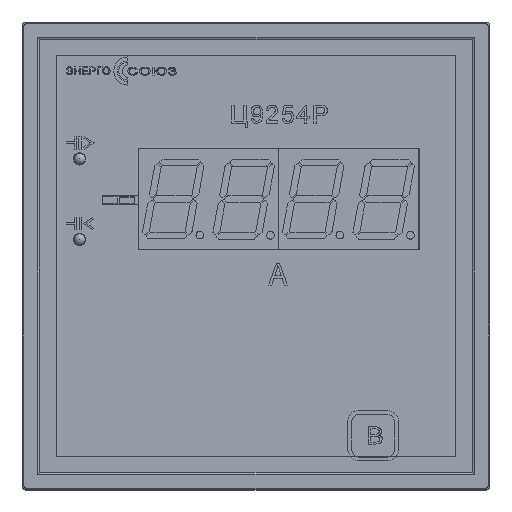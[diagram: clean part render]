
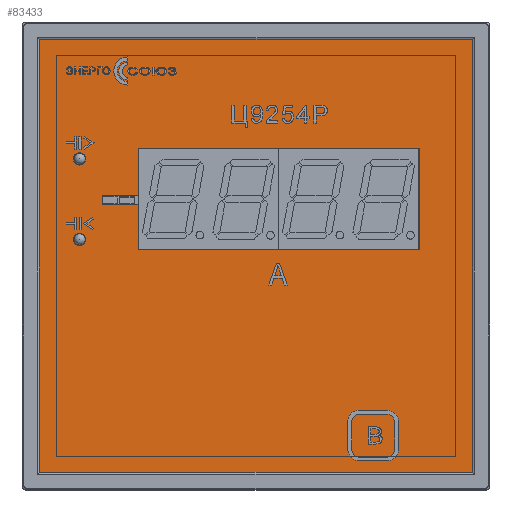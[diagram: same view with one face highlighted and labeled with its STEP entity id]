
A CAD part, top view. The second image highlights one B-rep face of the part: STEP entity #83433.
In plain terms, the highlighted planar face has unit normal (0, 0, 1).
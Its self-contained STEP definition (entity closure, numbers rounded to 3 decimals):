
#422 = LINE ( 'NONE', #78464, #5963 ) ;
#1826 = LINE ( 'NONE', #71467, #45880 ) ;
#2286 = CARTESIAN_POINT ( 'NONE',  ( -30.049, 13.175, 0.2 ) ) ;
#2744 = VERTEX_POINT ( 'NONE', #32782 ) ;
#2803 = EDGE_CURVE ( 'NONE', #2744, #46158, #65421, .T. ) ;
#3483 = EDGE_LOOP ( 'NONE', ( #72684, #53530 ) ) ;
#3494 = ORIENTED_EDGE ( 'NONE', *, *, #59386, .F. ) ;
#4283 = CARTESIAN_POINT ( 'NONE',  ( -45.241, 4.243, 0.2 ) ) ;
#4389 = ORIENTED_EDGE ( 'NONE', *, *, #40907, .F. ) ;
#5963 = VECTOR ( 'NONE', #25873, 1000. ) ;
#6700 = CARTESIAN_POINT ( 'NONE',  ( -39.339, 15.524, 0.2 ) ) ;
#7284 = EDGE_CURVE ( 'NONE', #52586, #10362, #62003, .T. ) ;
#8060 = VERTEX_POINT ( 'NONE', #46466 ) ;
#8106 = CARTESIAN_POINT ( 'NONE',  ( -30.049, 15.524, 0.2 ) ) ;
#8374 = EDGE_LOOP ( 'NONE', ( #12281, #52105 ) ) ;
#8679 = VECTOR ( 'NONE', #55941, 1000. ) ;
#9442 = EDGE_CURVE ( 'NONE', #79914, #61979, #65997, .T. ) ;
#9828 = CARTESIAN_POINT ( 'NONE',  ( 41.951, 27.637, 0.2 ) ) ;
#10157 = CARTESIAN_POINT ( 'NONE',  ( -39.339, 13.175, 0.2 ) ) ;
#10362 = VERTEX_POINT ( 'NONE', #25589 ) ;
#11026 = CARTESIAN_POINT ( 'NONE',  ( 55.5, 55.5, 0.2 ) ) ;
#11058 = FACE_BOUND ( 'NONE', #75165, .T. ) ;
#11604 = EDGE_CURVE ( 'NONE', #36443, #81263, #76694, .T. ) ;
#12035 = EDGE_CURVE ( 'NONE', #46158, #55163, #1826, .T. ) ;
#12281 = ORIENTED_EDGE ( 'NONE', *, *, #76876, .F. ) ;
#12957 = VECTOR ( 'NONE', #56252, 1000. ) ;
#13944 = VECTOR ( 'NONE', #48841, 1000. ) ;
#14306 = ORIENTED_EDGE ( 'NONE', *, *, #7284, .F. ) ;
#14688 = CARTESIAN_POINT ( 'NONE',  ( -43.665, 24.89, 0.2 ) ) ;
#15291 = CARTESIAN_POINT ( 'NONE',  ( -55.5, 55.5, 0.2 ) ) ;
#15432 = EDGE_CURVE ( 'NONE', #51845, #2744, #47107, .T. ) ;
#16305 = DIRECTION ( 'NONE',  ( 1., 0., 0. ) ) ;
#16469 = AXIS2_PLACEMENT_3D ( 'NONE', #4283, #62790, #30140 ) ;
#17455 = PLANE ( 'NONE',  #30365 ) ;
#17786 = VERTEX_POINT ( 'NONE', #71973 ) ;
#17977 = DIRECTION ( 'NONE',  ( -1., 0., 0. ) ) ;
#18355 = CARTESIAN_POINT ( 'NONE',  ( -30.049, 1.725, 0.2 ) ) ;
#18996 = VERTEX_POINT ( 'NONE', #73552 ) ;
#19255 = CIRCLE ( 'NONE', #31516, 1.571 ) ;
#19423 = VECTOR ( 'NONE', #61896, 1000. ) ;
#19737 = DIRECTION ( 'NONE',  ( 0., 1., 0. ) ) ;
#20529 = CARTESIAN_POINT ( 'NONE',  ( -55.5, 55.5, 0.2 ) ) ;
#21469 = CARTESIAN_POINT ( 'NONE',  ( -39.339, 15.524, 0.2 ) ) ;
#24515 = CARTESIAN_POINT ( 'NONE',  ( -30.049, 27.637, 0.2 ) ) ;
#25589 = CARTESIAN_POINT ( 'NONE',  ( 41.951, 1.725, 0.2 ) ) ;
#25873 = DIRECTION ( 'NONE',  ( 1., 0., 0. ) ) ;
#27216 = CARTESIAN_POINT ( 'NONE',  ( -30.049, 15.524, 0.2 ) ) ;
#27667 = VECTOR ( 'NONE', #60679, 1000. ) ;
#28586 = EDGE_CURVE ( 'NONE', #60667, #52586, #30374, .T. ) ;
#29034 = ORIENTED_EDGE ( 'NONE', *, *, #53539, .F. ) ;
#29250 = LINE ( 'NONE', #10157, #19423 ) ;
#30140 = DIRECTION ( 'NONE',  ( 1., 0., 0. ) ) ;
#30365 = AXIS2_PLACEMENT_3D ( 'NONE', #55240, #35701, #76362 ) ;
#30374 = LINE ( 'NONE', #49860, #12957 ) ;
#30735 = ORIENTED_EDGE ( 'NONE', *, *, #11604, .F. ) ;
#31001 = CARTESIAN_POINT ( 'NONE',  ( -43.67, 4.243, 0.2 ) ) ;
#31516 = AXIS2_PLACEMENT_3D ( 'NONE', #67624, #41738, #16305 ) ;
#31984 = DIRECTION ( 'NONE',  ( 0., 0., 1. ) ) ;
#32782 = CARTESIAN_POINT ( 'NONE',  ( -55.5, -55.5, 0.2 ) ) ;
#33577 = CARTESIAN_POINT ( 'NONE',  ( -46.812, 4.243, 0.2 ) ) ;
#35566 = ORIENTED_EDGE ( 'NONE', *, *, #28586, .F. ) ;
#35610 = VECTOR ( 'NONE', #50266, 1000. ) ;
#35701 = DIRECTION ( 'NONE',  ( 0., 0., 1. ) ) ;
#36443 = VERTEX_POINT ( 'NONE', #8106 ) ;
#37615 = CARTESIAN_POINT ( 'NONE',  ( -30.049, 27.637, 0.2 ) ) ;
#38327 = DIRECTION ( 'NONE',  ( 1., 0., 0. ) ) ;
#39806 = ORIENTED_EDGE ( 'NONE', *, *, #2803, .T. ) ;
#40907 = EDGE_CURVE ( 'NONE', #79631, #36443, #67075, .T. ) ;
#41657 = CARTESIAN_POINT ( 'NONE',  ( 41.951, 1.725, 0.2 ) ) ;
#41738 = DIRECTION ( 'NONE',  ( 0., 0., 1. ) ) ;
#44636 = VECTOR ( 'NONE', #67949, 1000. ) ;
#45219 = CARTESIAN_POINT ( 'NONE',  ( 55.5, -55.5, 0.2 ) ) ;
#45880 = VECTOR ( 'NONE', #19737, 1000. ) ;
#46158 = VERTEX_POINT ( 'NONE', #45219 ) ;
#46227 = VECTOR ( 'NONE', #53095, 1000. ) ;
#46466 = CARTESIAN_POINT ( 'NONE',  ( -39.339, 13.175, 0.2 ) ) ;
#47107 = LINE ( 'NONE', #15291, #27667 ) ;
#48841 = DIRECTION ( 'NONE',  ( 0., 1., 0. ) ) ;
#49860 = CARTESIAN_POINT ( 'NONE',  ( -30.049, 1.725, 0.2 ) ) ;
#50078 = FACE_BOUND ( 'NONE', #3483, .T. ) ;
#50266 = DIRECTION ( 'NONE',  ( 1., 0., 0. ) ) ;
#50488 = FACE_BOUND ( 'NONE', #8374, .T. ) ;
#51845 = VERTEX_POINT ( 'NONE', #20529 ) ;
#52089 = DIRECTION ( 'NONE',  ( -1., 0., 0. ) ) ;
#52105 = ORIENTED_EDGE ( 'NONE', *, *, #9442, .F. ) ;
#52586 = VERTEX_POINT ( 'NONE', #18355 ) ;
#52774 = VECTOR ( 'NONE', #52089, 1000. ) ;
#52910 = ORIENTED_EDGE ( 'NONE', *, *, #72945, .T. ) ;
#52948 = ORIENTED_EDGE ( 'NONE', *, *, #56794, .F. ) ;
#53095 = DIRECTION ( 'NONE',  ( 0., -1., 0. ) ) ;
#53359 = EDGE_LOOP ( 'NONE', ( #70186, #39806, #81529, #52910 ) ) ;
#53530 = ORIENTED_EDGE ( 'NONE', *, *, #56682, .F. ) ;
#53539 = EDGE_CURVE ( 'NONE', #8060, #60667, #422, .T. ) ;
#53977 = LINE ( 'NONE', #9828, #13944 ) ;
#54055 = ORIENTED_EDGE ( 'NONE', *, *, #59482, .F. ) ;
#55163 = VERTEX_POINT ( 'NONE', #11026 ) ;
#55240 = CARTESIAN_POINT ( 'NONE',  ( -55.5, -55.5, 0.2 ) ) ;
#55941 = DIRECTION ( 'NONE',  ( -1., 0., 0. ) ) ;
#56252 = DIRECTION ( 'NONE',  ( 0., -1., 0. ) ) ;
#56682 = EDGE_CURVE ( 'NONE', #18996, #60364, #19255, .T. ) ;
#56794 = EDGE_CURVE ( 'NONE', #10362, #17786, #53977, .T. ) ;
#59043 = AXIS2_PLACEMENT_3D ( 'NONE', #77092, #62807, #70709 ) ;
#59386 = EDGE_CURVE ( 'NONE', #81263, #8060, #29250, .T. ) ;
#59482 = EDGE_CURVE ( 'NONE', #17786, #79631, #62705, .T. ) ;
#60364 = VERTEX_POINT ( 'NONE', #14688 ) ;
#60667 = VERTEX_POINT ( 'NONE', #2286 ) ;
#60679 = DIRECTION ( 'NONE',  ( 0., -1., 0. ) ) ;
#61896 = DIRECTION ( 'NONE',  ( 0., -1., 0. ) ) ;
#61979 = VERTEX_POINT ( 'NONE', #31001 ) ;
#62003 = LINE ( 'NONE', #41657, #44636 ) ;
#62130 = VECTOR ( 'NONE', #17977, 1000. ) ;
#62705 = LINE ( 'NONE', #24515, #8679 ) ;
#62790 = DIRECTION ( 'NONE',  ( 0., 0., 1. ) ) ;
#62807 = DIRECTION ( 'NONE',  ( 0., 0., 1. ) ) ;
#65207 = CIRCLE ( 'NONE', #16469, 1.571 ) ;
#65421 = LINE ( 'NONE', #65829, #35610 ) ;
#65829 = CARTESIAN_POINT ( 'NONE',  ( -55.5, -55.5, 0.2 ) ) ;
#65997 = CIRCLE ( 'NONE', #83570, 1.571 ) ;
#67075 = LINE ( 'NONE', #27216, #46227 ) ;
#67624 = CARTESIAN_POINT ( 'NONE',  ( -45.236, 24.89, 0.2 ) ) ;
#67949 = DIRECTION ( 'NONE',  ( 1., 0., 0. ) ) ;
#68744 = FACE_OUTER_BOUND ( 'NONE', #53359, .T. ) ;
#69288 = CARTESIAN_POINT ( 'NONE',  ( -45.241, 4.243, 0.2 ) ) ;
#69995 = EDGE_CURVE ( 'NONE', #60364, #18996, #79301, .T. ) ;
#70186 = ORIENTED_EDGE ( 'NONE', *, *, #15432, .T. ) ;
#70709 = DIRECTION ( 'NONE',  ( 1., 0., 0. ) ) ;
#71467 = CARTESIAN_POINT ( 'NONE',  ( 55.5, 55.5, 0.2 ) ) ;
#71973 = CARTESIAN_POINT ( 'NONE',  ( 41.951, 27.637, 0.2 ) ) ;
#72684 = ORIENTED_EDGE ( 'NONE', *, *, #69995, .F. ) ;
#72945 = EDGE_CURVE ( 'NONE', #55163, #51845, #75646, .T. ) ;
#73552 = CARTESIAN_POINT ( 'NONE',  ( -46.807, 24.89, 0.2 ) ) ;
#75165 = EDGE_LOOP ( 'NONE', ( #3494, #30735, #4389, #54055, #52948, #14306, #35566, #29034 ) ) ;
#75646 = LINE ( 'NONE', #81994, #62130 ) ;
#76362 = DIRECTION ( 'NONE',  ( 1., 0., 0. ) ) ;
#76694 = LINE ( 'NONE', #6700, #52774 ) ;
#76876 = EDGE_CURVE ( 'NONE', #61979, #79914, #65207, .T. ) ;
#77092 = CARTESIAN_POINT ( 'NONE',  ( -45.236, 24.89, 0.2 ) ) ;
#78464 = CARTESIAN_POINT ( 'NONE',  ( -30.049, 13.175, 0.2 ) ) ;
#79301 = CIRCLE ( 'NONE', #59043, 1.571 ) ;
#79631 = VERTEX_POINT ( 'NONE', #37615 ) ;
#79914 = VERTEX_POINT ( 'NONE', #33577 ) ;
#81263 = VERTEX_POINT ( 'NONE', #21469 ) ;
#81529 = ORIENTED_EDGE ( 'NONE', *, *, #12035, .T. ) ;
#81994 = CARTESIAN_POINT ( 'NONE',  ( -55.5, 55.5, 0.2 ) ) ;
#83433 = ADVANCED_FACE ( 'NONE', ( #11058, #50078, #50488, #68744 ), #17455, .T. ) ;
#83570 = AXIS2_PLACEMENT_3D ( 'NONE', #69288, #31984, #38327 ) ;
